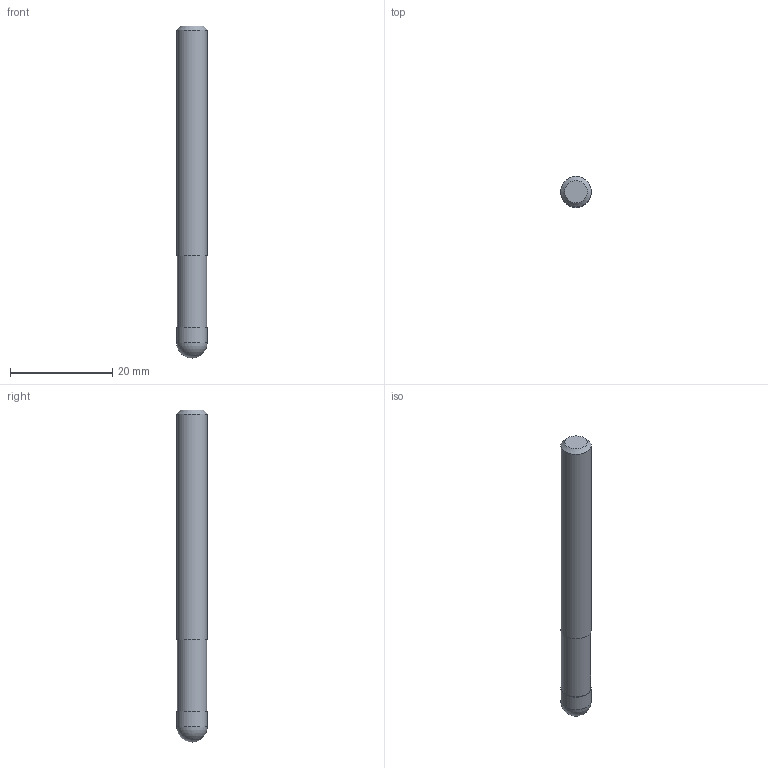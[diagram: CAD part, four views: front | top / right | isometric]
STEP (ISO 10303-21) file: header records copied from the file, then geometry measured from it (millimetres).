
FILE_DESCRIPTION((''),'2;1');
FILE_NAME('C:\Users\nsx150\AppData\Local\Temp\Mastercam 2021\I4OPY4JDSB\TEMP.step','2022-11-18T16:28:03',(''),(''),'STEP Write','Mastercam 2021 ... CNC Software, Inc.','');
FILE_SCHEMA(('AUTOMOTIVE_DESIGN'));
Length unit declared in the file: millimetre
Products named in the file (1): None
Bounding box: 6 x 6 x 65 mm (x, y, z)
Volume: 1765.5 mm3; surface area: 1287.2 mm2
Topology: 2 solids, 2 shells, 9 faces, 13 edges, 8 vertices
Faces by surface type: plane 4, cylinder 3, sphere 1, cone 1
Full cylindrical faces by diameter (mm): 5.7 x1, 6 x2
Entity records: 211 total; most frequent: DIRECTION 36, CARTESIAN_POINT 25, AXIS2_PLACEMENT_3D 18, ORIENTED_EDGE 14, EDGE_LOOP 14, STYLED_ITEM 12, ADVANCED_FACE 9, FACE_BOUND 8
